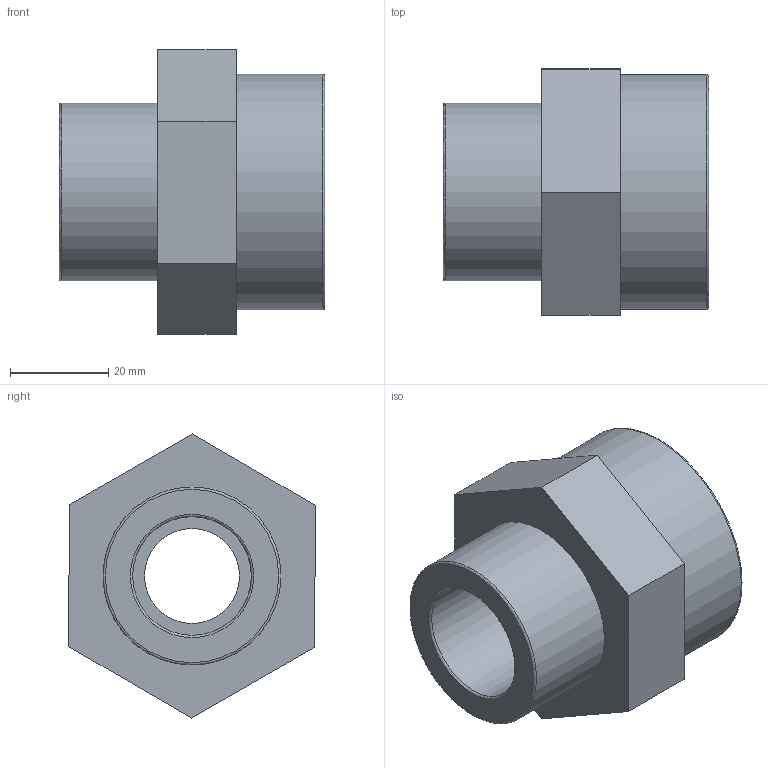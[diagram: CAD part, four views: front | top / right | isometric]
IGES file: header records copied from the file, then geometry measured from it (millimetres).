
Global section: file name: 050201015007.ipt; native system: Autodesk Inventor 2015; preprocessor: unknown; author: KIM; date: 20171207.164303; units: millimetre
Bounding box: 54 x 50.09 x 57.73 mm (x, y, z)
Volume: 52662 mm3; surface area: 16076.5 mm2
Topology: 1 solids, 1 shells, 21 faces, 55 edges, 40 vertices
Faces by surface type: plane 12, revolution 7, cylinder 2
Full cylindrical faces by diameter (mm): 36.175 x1, 47.803 x1
